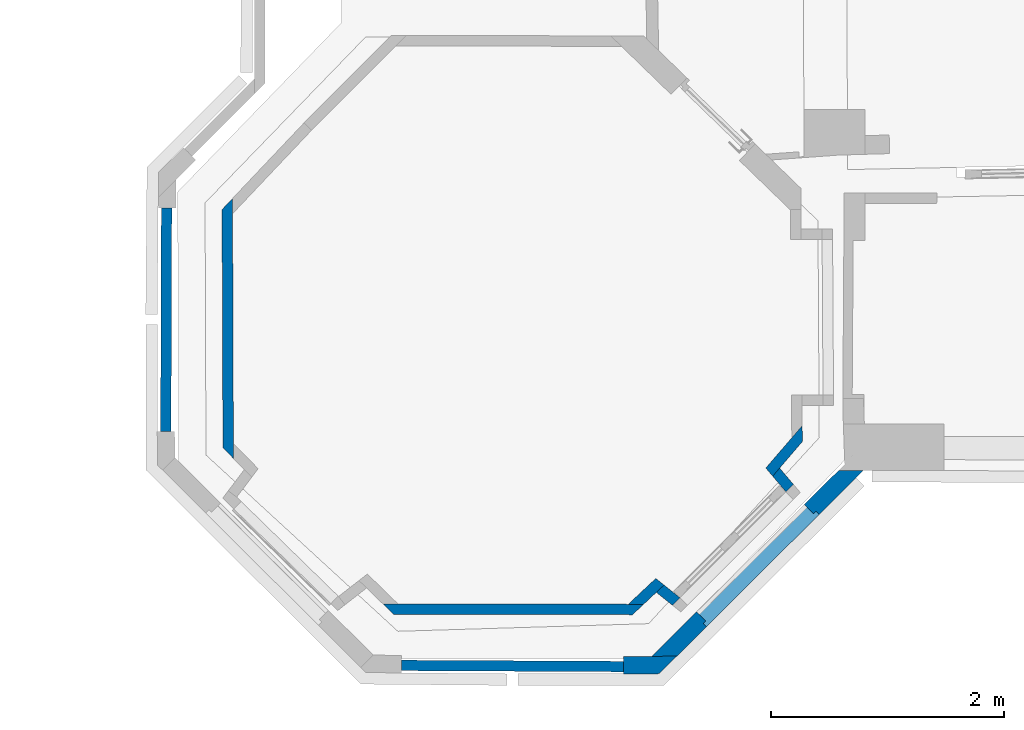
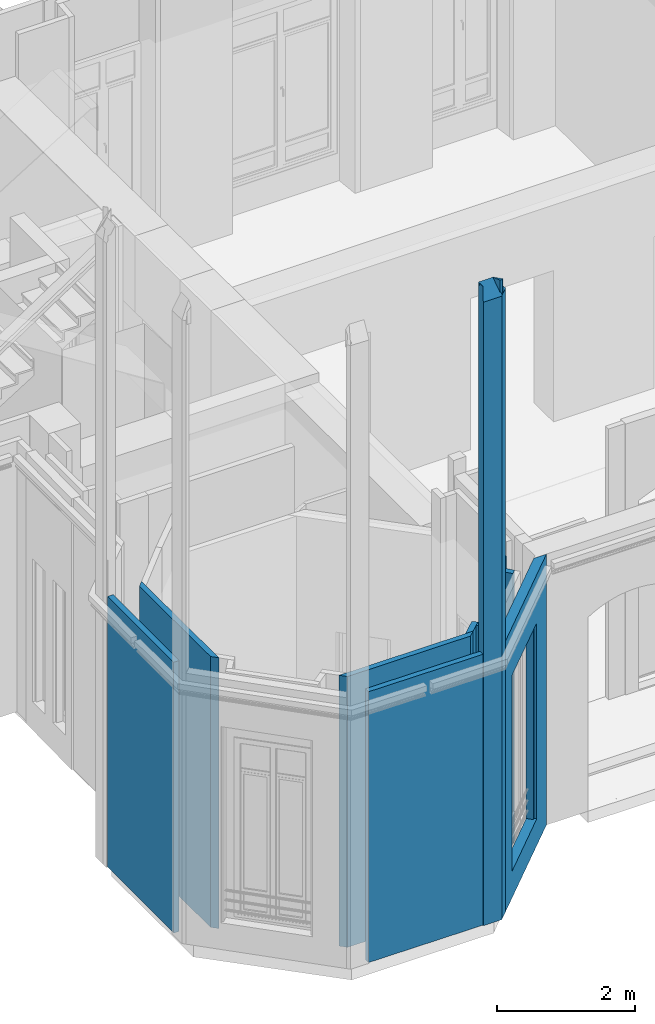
# One storey, part 4 of 97: 10 walls, 1 opening.
"""IFC2X3 building model written with IfcOpenShell, lengths in centimetres."""

from ifc_helpers import new_model, entity, si_unit, converted_unit, direction, frame, origin, origin_with_axes, origin_2d_with_axis, place, context, subcontext, project, spatial, polyline, rectangle, outline, extrude, clip, bounded_halfspace, faceted_brep, shape, material, layer, layer_set, layer_usage, type_object, element, save


model = new_model("IFC2X3")

# Units and contexts
model_context = context("Model", 3, precision=0.0001, world=origin(), true_north=direction((0.225632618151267, 0.974212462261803, 0.0)))
body_context = subcontext(model_context, "Body", "Model", "MODEL_VIEW")
footprint_context = subcontext(model_context, "FootPrint", "Model", "MODEL_VIEW")
profile_context = subcontext(model_context, "Profile", "Model", "MODEL_VIEW")
ifc_project = project(units=[si_unit("LENGTHUNIT", "METRE", prefix="CENTI"), si_unit("AREAUNIT", "SQUARE_METRE", prefix="CENTI"), si_unit("VOLUMEUNIT", "CUBIC_METRE", prefix="CENTI"), converted_unit("PLANEANGLEUNIT", "DEGREE", entity("IfcRatioMeasure", 0.0174532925), si_unit("PLANEANGLEUNIT", "RADIAN"), dimensions=[0, 0, 0, 0, 0, 0, 0])], contexts=[model_context])

# Site, building, storey
site_placement = place(None, origin_with_axes())
site = spatial("IfcSite", under=ifc_project, at=site_placement, Name="Default Site", CompositionType="ELEMENT")
building_placement = place(site_placement, origin_with_axes())
building = spatial("IfcBuilding", under=site, at=building_placement, Name="Default Building", CompositionType="ELEMENT")
storey_placement = place(building_placement, origin_with_axes())
storey = spatial("IfcBuildingStorey", under=building, at=storey_placement, Name="Rez-de-chaussée", CompositionType="ELEMENT", Elevation=0.0)

# Walls
ifc_material = material(Name="<aucun>")
ifc_layer_1 = layer(ifc_material, 9.0)
ifc_layer_set_1 = layer_set([ifc_layer_1], Name="default")
ifc_layer_usage_1 = layer_usage(ifc_layer_set_1, "AXIS2", "POSITIVE", -4.5)
wall_type_1 = type_object("IfcWallType", Name="default 90", PredefinedType="NOTDEFINED", material=ifc_layer_set_1)
wall_1_placement = place(storey_placement, frame((-864.166698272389, -1139.15427620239, 0.0128503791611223), z_axis=(0.0, 0.0, 1.0), x_axis=(-0.999986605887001, 0.00517571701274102, 0.0)))
element("IfcWallStandardCase", 1, at=wall_1_placement, inside=storey, type_object=wall_type_1, material=ifc_layer_usage_1, Name="Enveloppe 375883", context=body_context, shape_type="SweptSolid", body=[
    extrude(rectangle(XDim=8.99999999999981, YDim=190.423237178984, at=origin_2d_with_axis()), frame((95.3469453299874, -1.4210854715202e-12, -2.71050543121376e-18), z_axis=(0.0, 0.0, 1.0), x_axis=(-1.02348685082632e-16, -1.0, 0.0)), (0.0, 0.0, 1.0), 477.795358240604),
])
ifc_layer_usage_2 = layer_usage(ifc_layer_set_1, "AXIS2", "POSITIVE", -4.5)
wall_2_placement = place(storey_placement, frame((-1256.86167191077, -937.534476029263, 0.0128503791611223), z_axis=(0.0, 0.0, 1.0), x_axis=(0.00329246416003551, 0.999994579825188, 0.0)))
element("IfcWallStandardCase", 2, at=wall_2_placement, inside=storey, type_object=wall_type_1, material=ifc_layer_usage_2, Name="Enveloppe 373104", context=body_context, shape_type="SweptSolid", body=[
    extrude(outline(polyline([(-0.0930553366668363, 4.49999999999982), (0.00694466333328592, -4.50000000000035), (191.65066502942, -4.50000000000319), (191.609213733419, 4.4999999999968), (-0.0930553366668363, 4.49999999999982)])), origin_with_axes(), (0.0, 0.0, 1.0), 477.795358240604),
])
ifc_layer_usage_3 = layer_usage(ifc_layer_set_1, "AXIS2", "POSITIVE", -4.5)
wall_3_placement = place(storey_placement, frame((-722.09391317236, -985.90789142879, 0.0128503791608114), z_axis=(0.0, 0.0, 1.0), x_axis=(-0.645142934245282, 0.764061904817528, 0.0)))
element("IfcWallStandardCase", 3, at=wall_3_placement, inside=storey, type_object=wall_type_1, material=ifc_layer_usage_3, Name="Enveloppe 663288", context=body_context, shape_type="SweptSolid", body=[
    extrude(outline(polyline([(16.9320251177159, 4.50000000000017), (-0.646221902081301, 4.50000000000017), (0.121286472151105, -4.49999999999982), (18.3860856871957, -4.49999999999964), (16.9320251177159, 4.50000000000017)])), frame((0.0, 0.0, 2.71050543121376e-18), z_axis=(0.0, 0.0, 1.0), x_axis=(1.0, 0.0, 0.0)), (0.0, 0.0, 1.0), 477.795358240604),
])
ifc_layer_usage_4 = layer_usage(ifc_layer_set_1, "AXIS2", "POSITIVE", -4.5)
wall_4_placement = place(storey_placement, frame((-856.841432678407, -1088.64444712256, 0.0128503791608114), z_axis=(0.0, 0.0, 1.0), x_axis=(0.729404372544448, 0.684082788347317, 0.0)))
element("IfcWallStandardCase", 4, at=wall_4_placement, inside=storey, type_object=wall_type_1, material=ifc_layer_usage_4, Name="Enveloppe 663362", context=body_context, shape_type="SweptSolid", body=[
    extrude(outline(polyline([(-0.521693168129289, 4.49999999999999), (9.03921186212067, -4.4999999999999), (33.1103117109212, -4.49999999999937), (31.8096939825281, 4.5000000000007), (-0.521693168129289, 4.49999999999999)])), origin_with_axes(), (0.0, 0.0, 1.0), 477.795358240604),
])
ifc_layer_usage_5 = layer_usage(ifc_layer_set_1, "AXIS2", "POSITIVE", -4.5)
wall_5_placement = place(storey_placement, frame((-818.695972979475, -1083.75419653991, 0.0128503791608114), z_axis=(0.0, 0.0, 1.0), x_axis=(-0.781374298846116, 0.624062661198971, 0.0)))
element("IfcWallStandardCase", 5, at=wall_5_placement, inside=storey, type_object=wall_type_1, material=ifc_layer_usage_5, Name="Enveloppe 663416", context=body_context, shape_type="SweptSolid", body=[
    extrude(outline(polyline([(18.8652637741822, 4.49999999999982), (0.999312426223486, 4.50000000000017), (-1.77635683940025e-13, -4.49999999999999), (17.5646460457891, -4.49999999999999), (18.8652637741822, 4.49999999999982)])), origin_with_axes(), (0.0, 0.0, 1.0), 477.795358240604),
])
ifc_layer_usage_6 = layer_usage(ifc_layer_set_1, "AXIS2", "POSITIVE", -4.5)
wall_6_placement = place(storey_placement, frame((-735.436719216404, -967.778546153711, 0.0128503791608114), z_axis=(0.0, 0.0, 1.0), x_axis=(0.651384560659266, 0.758747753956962, 0.0)))
element("IfcWallStandardCase", 6, at=wall_6_placement, inside=storey, type_object=wall_type_1, material=ifc_layer_usage_6, Name="Enveloppe 7243", context=body_context, shape_type="SweptSolid", body=[
    extrude(outline(polyline([(-5.35207831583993, 4.49999999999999), (-6.80613888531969, -4.49999999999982), (32.1810835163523, -4.50000000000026), (42.5389147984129, 4.49999999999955), (-5.35207831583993, 4.49999999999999)])), origin_with_axes(), (0.0, 0.0, 1.0), 477.795358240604),
])
ifc_layer_usage_7 = layer_usage(ifc_layer_set_1, "AXIS2", "POSITIVE", -4.5)
wall_7_placement = place(storey_placement, frame((-1203.40776892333, -947.820758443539, 0.0128503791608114), z_axis=(0.0, 0.0, 1.0), x_axis=(-0.00363509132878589, 0.99999339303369, 0.0)))
element("IfcWallStandardCase", 7, at=wall_7_placement, inside=storey, type_object=wall_type_1, material=ifc_layer_usage_7, Name="Enveloppe 7305", context=body_context, shape_type="SweptSolid", body=[
    extrude(outline(polyline([(200.574414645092, 4.49999999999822), (-3.65017309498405, 4.49999999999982), (-12.9204507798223, -4.49999999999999), (210.018549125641, -4.50000000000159), (200.574414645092, 4.49999999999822)])), frame((0.0, 0.0, -5.42101086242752e-18), z_axis=(0.0, 0.0, 1.0), x_axis=(1.0, 0.0, 0.0)), (0.0, 0.0, 1.0), 477.795358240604),
])
ifc_layer_usage_8 = layer_usage(ifc_layer_set_1, "AXIS2", "POSITIVE", -4.5)
wall_8_placement = place(storey_placement, frame((-859.51420121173, -1090.2204645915, 0.0128503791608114), z_axis=(0.0, 0.0, 1.0), x_axis=(-0.999998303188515, 0.00184217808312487, 0.0)))
element("IfcWallStandardCase", 8, at=wall_8_placement, inside=storey, type_object=wall_type_1, material=ifc_layer_usage_8, Name="Enveloppe 7213", context=body_context, shape_type="SweptSolid", body=[
    extrude(outline(polyline([(211.263041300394, -4.4999999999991), (201.999695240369, 4.50000000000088), (-2.77520783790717, 4.49999999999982), (-12.3361128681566, -4.49999999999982), (211.263041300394, -4.4999999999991)])), origin_with_axes(), (0.0, 0.0, 1.0), 477.795358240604),
])
ifc_layer_2 = layer(ifc_material, 15.0)
ifc_layer_set_2 = layer_set([ifc_layer_2], Name="default")
ifc_layer_usage_9 = layer_usage(ifc_layer_set_2, "AXIS2", "POSITIVE", -7.5)
wall_type_2 = type_object("IfcWallType", Name="default 150", PredefinedType="NOTDEFINED", material=ifc_layer_set_2)
wall_9_placement = place(storey_placement, frame((-864.211914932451, -1137.86010532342, 0.0128503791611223), z_axis=(0.0, 0.0, 1.0), x_axis=(0.999998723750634, 0.00159765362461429, 0.0)))
solid_1 = clip(clip(clip(clip(clip(clip(clip(clip(extrude(outline(polyline([(-0.0999977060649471, -5.79337509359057), (-1.77635683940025e-13, -5.79405242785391), (-1.77635683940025e-13, -7.50000000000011), (30.3984350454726, -7.50000000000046), (45.5123485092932, 7.49999999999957), (0.0, 7.49999999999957), (1.49818646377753e-07, 3.95170406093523), (-0.0742549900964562, 3.95182269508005), (-0.0999977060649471, -5.79337509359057)])), frame((0.0, 0.0, -2.71050543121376e-18), z_axis=(0.0, 0.0, 1.0), x_axis=(1.0, 0.0, 0.0)), (0.0, 0.0, 1.0), 1126.83073312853), bounded_halfspace(frame((-0.0763865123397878, 3.20667143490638, 477.795358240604), z_axis=(0.0, 0.0, 1.0), x_axis=(0.00286051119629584, 0.999995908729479, 0.0)), True, frame((-0.0763865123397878, 3.20667143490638, 477.795358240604), z_axis=(0.0, 0.0, 1.0), x_axis=(1.0, 0.0, 0.0)), polyline([(-0.0198053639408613, -7.73922809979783), (0.0146918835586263, -9.95154440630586e-05), (1.77635683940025e-13, 0.0), (0.00213152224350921, 0.745151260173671), (0.076386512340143, 0.744938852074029), (0.076386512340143, -0.000517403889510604), (0.037348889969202, -0.000252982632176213), (-0.0198053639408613, -7.73922809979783)]))), bounded_halfspace(frame((-0.0763865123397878, 3.20667143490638, 477.795358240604), z_axis=(0.0, 0.0, 1.0), x_axis=(0.999977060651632, -0.00677334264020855, 0.0)), True, frame((-0.0763865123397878, 3.20667143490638, 477.795358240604), z_axis=(0.0, 0.0, 1.0), x_axis=(1.0, 0.0, 0.0)), polyline([(-0.0107407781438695, -3.75483032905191), (1.77635683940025e-13, 0.0), (0.0146918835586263, -9.95154440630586e-05), (-0.0107407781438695, -3.75483032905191)]))), bounded_halfspace(frame((34.7848477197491, -3.14664768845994, 853.897523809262), z_axis=(0.0, 0.0, 1.0), x_axis=(-0.704426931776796, 0.709776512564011, 0.0)), True, frame((34.7848477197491, -3.14664768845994, 853.897523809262), z_axis=(0.0, 0.0, 1.0), x_axis=(1.0, 0.0, 0.0)), polyline([(-1.95705105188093, 1.97191334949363), (6.75708927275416, 10.6466476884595), (10.7275007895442, 10.6466476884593), (1.77635683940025e-13, 0.0), (-1.95705105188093, 1.97191334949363)]))), bounded_halfspace(frame((24.2184437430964, 7.49999999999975, 853.897523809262), z_axis=(0.0, 0.0, 1.0), x_axis=(1.0, 6.52828485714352e-14, 0.0)), True, frame((24.2184437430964, 7.49999999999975, 853.897523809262), z_axis=(0.0, 0.0, 1.0), x_axis=(1.0, 0.0, 0.0)), polyline([(1.77635683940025e-13, 0.0), (0.500969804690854, -1.77635683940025e-13), (0.968193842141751, -0.975546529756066), (1.77635683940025e-13, 0.0)]))), bounded_halfspace(frame((25.1866375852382, 6.52445347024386, 853.897523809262), z_axis=(0.0, 0.0, 1.0), x_axis=(-0.431950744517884, 0.901897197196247, 0.0)), True, frame((25.1866375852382, 6.52445347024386, 853.897523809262), z_axis=(0.0, 0.0, 1.0), x_axis=(1.0, 0.0, 0.0)), polyline([(-0.467224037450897, 0.975546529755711), (16.3552994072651, 0.975546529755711), (7.64115908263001, -7.69918780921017), (0.0, -1.77635683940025e-13), (-0.467224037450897, 0.975546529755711)]))), bounded_halfspace(frame((-0.0390376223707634, 3.20641845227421, 1118.93042653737), z_axis=(0.00500907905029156, 0.871946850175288, -0.489574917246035), x_axis=(-0.00361553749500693, -0.489562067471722, -0.871960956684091)), True, frame((-0.0390376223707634, 3.20641845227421, 1118.93042653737), z_axis=(0.0, 0.0, 1.0), x_axis=(1.0, 0.0, 0.0)), polyline([(-0.0571542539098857, -7.73897511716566), (0.039037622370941, -7.73899243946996), (0.0390376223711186, -0.000264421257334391), (1.77635683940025e-13, 0.0), (-0.0571542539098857, -7.73897511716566)]))), bounded_halfspace(frame((0.0, -5.048426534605, 1104.22871227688), z_axis=(0.00500907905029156, 0.871946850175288, -0.489574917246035), x_axis=(9.96888118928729e-14, 0.489581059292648, 0.871957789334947)), True, frame((0.0, -5.048426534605, 1104.22871227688), z_axis=(0.0, 0.0, 1.0), x_axis=(1.0, 0.0, 0.0)), polyline([(-0.0999977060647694, -0.74494855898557), (0.0, -0.745625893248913), (1.77635683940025e-13, 0.0), (-0.09999959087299, 0.000286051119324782), (-0.0999977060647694, -0.74494855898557)]))), bounded_halfspace(frame((30.1505052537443, -3.83991884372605, 1104.95206232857), z_axis=(-0.615650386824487, 0.615456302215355, -0.49212614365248), x_axis=(0.222077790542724, -0.463690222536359, -0.857713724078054)), True, frame((30.1505052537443, -3.83991884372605, 1104.95206232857), z_axis=(0.0, 0.0, 1.0), x_axis=(1.0, 0.0, 0.0)), polyline([(1.77635683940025e-13, -1.77635683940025e-13), (0.334366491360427, -0.69814488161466), (3.23183395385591, -0.698666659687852), (4.63434246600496, 0.693271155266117), (2.67729141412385, 2.66518450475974), (1.77635683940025e-13, -1.77635683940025e-13)])))
solid_2 = clip(clip(clip(clip(clip(clip(clip(clip(solid_1, bounded_halfspace(frame((25.1866375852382, 6.52445347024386, 1124.12362114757), z_axis=(-0.615650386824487, 0.615456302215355, -0.49212614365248), x_axis=(0.222077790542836, -0.4636902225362, -0.857713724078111)), True, frame((25.1866375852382, 6.52445347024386, 1124.12362114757), z_axis=(0.0, 0.0, 1.0), x_axis=(1.0, 0.0, 0.0)), polyline([(0.0, -1.77635683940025e-13), (4.96386766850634, -10.3643723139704), (7.64115908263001, -7.69918780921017), (0.0, -1.77635683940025e-13)]))), bounded_halfspace(frame((24.04792268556, 7.49999999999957, 1126.82386277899), z_axis=(0.00500907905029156, 0.871946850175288, -0.489574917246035), x_axis=(2.93717957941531e-14, -0.489581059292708, -0.871957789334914)), True, frame((24.04792268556, 7.49999999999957, 1126.82386277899), z_axis=(0.0, 0.0, 1.0), x_axis=(1.0, 0.0, 0.0)), polyline([(-24.0479226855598, -12.0325739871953), (0.17052105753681, -12.0369352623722), (0.170521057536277, -0.402024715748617), (0.0, -1.77635683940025e-13), (-24.0479226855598, -1.77635683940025e-13), (-24.0479226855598, -12.0325739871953)]))), bounded_halfspace(frame((24.2184437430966, -4.53693526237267, 1105.38748345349), z_axis=(0.00500907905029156, 0.871946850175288, -0.489574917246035), x_axis=(0.999947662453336, -1.23670605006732e-14, 0.0102309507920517)), True, frame((24.2184437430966, -4.53693526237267, 1105.38748345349), z_axis=(0.0, 0.0, 1.0), x_axis=(1.0, 0.0, 0.0)), polyline([(-24.2184437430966, -2.96306473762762), (-1.77635683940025e-13, -2.96306473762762), (1.77635683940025e-13, 0.0), (-24.2184437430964, 0.00436127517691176), (-24.2184437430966, -2.96306473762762)]))), bounded_halfspace(frame((30.4848717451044, -4.53806372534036, 1103.660664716), z_axis=(-0.615650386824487, 0.615456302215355, -0.49212614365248), x_axis=(0.222077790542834, -0.463690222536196, -0.857713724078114)), True, frame((30.4848717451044, -4.53806372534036, 1103.660664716), z_axis=(0.0, 0.0, 1.0), x_axis=(1.0, 0.0, 0.0)), polyline([(0.0, -1.77635683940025e-13), (0.933686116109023, -1.94950211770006), (2.89746746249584, -0.000521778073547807), (0.0, -1.77635683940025e-13)]))), bounded_halfspace(frame((0.0, -4.53257398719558, 1105.14746033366), z_axis=(0.00500907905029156, 0.871946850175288, -0.489574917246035), x_axis=(-6.9410623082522e-16, 0.489581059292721, 0.871957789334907)), True, frame((0.0, -4.53257398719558, 1105.14746033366), z_axis=(0.0, 0.0, 1.0), x_axis=(1.0, 0.0, 0.0)), polyline([(-0.09999959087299, -0.515566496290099), (1.77635683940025e-13, -0.515852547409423), (1.77635683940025e-13, -1.77635683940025e-13), (-0.0961918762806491, 1.73223041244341e-05), (-0.09999959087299, -0.515566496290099)]))), bounded_halfspace(frame((30.1505052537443, -3.83991884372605, 1106.68958332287), z_axis=(0.00500907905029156, 0.871946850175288, -0.489574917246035), x_axis=(-0.439765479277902, -0.437776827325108, -0.784192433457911)), True, frame((30.1505052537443, -3.83991884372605, 1106.68958332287), z_axis=(0.0, 0.0, 1.0), x_axis=(1.0, 0.0, 0.0)), polyline([(-0.701128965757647, -0.697958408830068), (0.334366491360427, -0.69814488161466), (1.77635683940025e-13, -1.77635683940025e-13), (-0.701128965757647, -0.697958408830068)]))), bounded_halfspace(frame((24.2184437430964, 7.49999999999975, 1126.82560746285), z_axis=(0.00500907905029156, 0.871946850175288, -0.489574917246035), x_axis=(-2.49508530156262e-14, -0.489581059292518, -0.871957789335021)), True, frame((24.2184437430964, 7.49999999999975, 1126.82560746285), z_axis=(0.0, 0.0, 1.0), x_axis=(1.0, 0.0, 0.0)), polyline([(-1.77635683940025e-13, -0.402024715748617), (4.93539010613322, -12.0378240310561), (5.23093254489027, -12.0378772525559), (5.93206151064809, -11.3399188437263), (0.968193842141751, -0.975546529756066), (1.77635683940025e-13, 0.0), (-1.77635683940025e-13, -0.402024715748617)]))), bounded_halfspace(frame((24.2184437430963, 7.09797528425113, 1126.1095900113), z_axis=(0.00500907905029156, 0.871946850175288, -0.489574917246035), x_axis=(-0.203682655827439, 0.480207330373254, 0.853178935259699)), True, frame((24.2184437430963, 7.09797528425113, 1126.1095900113), z_axis=(0.0, 0.0, 1.0), x_axis=(1.0, 0.0, 0.0)), polyline([(5.32907051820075e-13, -11.6349105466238), (4.9353901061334, -11.6357993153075), (0.0, 0.0), (5.32907051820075e-13, -11.6349105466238)])))
element("IfcWallStandardCase", 9, at=wall_9_placement, inside=storey, type_object=wall_type_2, material=ifc_layer_usage_9, Name="Enveloppe 375675", context=body_context, shape_type="Clipping", body=[
    clip(clip(clip(clip(clip(clip(clip(clip(solid_2, bounded_halfspace(frame((24.04792268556, 7.49999999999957, 1126.76817995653), z_axis=(-0.615650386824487, 0.615456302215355, -0.49212614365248), x_axis=(0.203304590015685, -0.479315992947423, -0.853770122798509)), True, frame((24.04792268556, 7.49999999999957, 1126.76817995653), z_axis=(0.0, 0.0, 1.0), x_axis=(1.0, 0.0, 0.0)), polyline([(0.0, -1.77635683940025e-13), (0.170521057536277, -0.402024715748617), (0.170521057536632, 1.77635683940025e-13), (0.0, -1.77635683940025e-13)]))), bounded_halfspace(frame((29.1538338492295, -4.5378240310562, 1105.43639690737), z_axis=(0.00500907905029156, 0.871946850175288, -0.489574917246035), x_axis=(0.999947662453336, -1.9037939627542e-14, 0.010230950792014)), True, frame((29.1538338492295, -4.5378240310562, 1105.43639690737), z_axis=(0.0, 0.0, 1.0), x_axis=(1.0, 0.0, 0.0)), polyline([(-4.93539010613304, -2.96217596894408), (1.24460119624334, -2.96217596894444), (0.0, -1.77635683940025e-13), (-4.93539010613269, 0.000888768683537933), (-4.93539010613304, -2.96217596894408)]))), bounded_halfspace(frame((30.4848717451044, -4.53806372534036, 1105.449588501), z_axis=(0.00500907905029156, 0.871946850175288, -0.489574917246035), x_axis=(-0.228739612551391, 0.47759986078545, 0.84827858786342)), True, frame((30.4848717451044, -4.53806372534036, 1105.449588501), z_axis=(0.0, 0.0, 1.0), x_axis=(1.0, 0.0, 0.0)), polyline([(-1.33103789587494, 0.000239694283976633), (-0.0864366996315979, -2.96193627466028), (0.933686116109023, -1.94950211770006), (0.0, -1.77635683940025e-13), (-1.33103789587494, 0.000239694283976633)]))), bounded_halfspace(frame((1.77635683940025e-13, 3.95161028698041, 1120.25803379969), z_axis=(0.00500907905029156, 0.871946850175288, -0.489574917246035), x_axis=(-0.00331605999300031, -0.489563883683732, -0.871961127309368)), True, frame((1.77635683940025e-13, 3.95161028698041, 1120.25803379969), z_axis=(0.0, 0.0, 1.0), x_axis=(1.0, 0.0, 0.0)), polyline([(-0.0961918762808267, -8.48416695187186), (-0.0390376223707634, -0.745191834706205), (1.77635683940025e-13, -0.745456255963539), (1.77635683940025e-13, 0.0), (-0.0742549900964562, 0.000212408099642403), (-0.0763865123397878, -0.744938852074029), (-0.0616946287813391, -0.745038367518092), (-0.0961918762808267, -8.48416695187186)]))), bounded_halfspace(frame((-0.0763865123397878, 3.20667143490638, 1118.93049497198), z_axis=(0.00500907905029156, 0.871946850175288, -0.489574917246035), x_axis=(0.00331605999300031, 0.489563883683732, 0.871961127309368)), True, frame((-0.0763865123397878, 3.20667143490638, 1118.93049497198), z_axis=(0.0, 0.0, 1.0), x_axis=(1.0, 0.0, 0.0)), polyline([(-0.0107407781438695, -3.75483032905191), (0.0146918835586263, -9.95154440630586e-05), (1.77635683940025e-13, 0.0), (-0.0107407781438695, -3.75483032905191)]))), bounded_halfspace(frame((32.8277966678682, -1.17473433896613, 1104.93586547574), z_axis=(-0.615650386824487, 0.615456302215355, -0.49212614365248), x_axis=(-0.624390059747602, -1.77368970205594e-14, 0.7811127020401)), True, frame((32.8277966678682, -1.17473433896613, 1104.93586547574), z_axis=(0.0, 0.0, 1.0), x_axis=(1.0, 0.0, 0.0)), polyline([(0.0, -1.77635683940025e-13), (1.95705105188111, -1.9719133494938), (12.6845518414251, 8.67473433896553), (8.71414032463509, 8.67473433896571), (0.0, -1.77635683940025e-13)]))), bounded_halfspace(frame((24.7194135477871, 7.49999999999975, 1126.83073312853), z_axis=(0.00500907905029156, 0.871946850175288, -0.489574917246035), x_axis=(-0.228739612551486, 0.477599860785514, 0.848278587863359)), True, frame((24.7194135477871, 7.49999999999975, 1126.83073312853), z_axis=(0.0, 0.0, 1.0), x_axis=(1.0, 0.0, 0.0)), polyline([(-0.500969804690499, 0.0), (0.467224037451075, -0.975546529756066), (1.77635683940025e-13, -1.77635683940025e-13), (-0.500969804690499, 0.0)]))), bounded_halfspace(frame((24.7194135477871, 7.49999999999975, 1125.92814409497), z_axis=(-0.615650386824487, 0.615456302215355, -0.49212614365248), x_axis=(0.708700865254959, 0.705496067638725, -0.00428743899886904)), True, frame((24.7194135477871, 7.49999999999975, 1125.92814409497), z_axis=(0.0, 0.0, 1.0), x_axis=(1.0, 0.0, 0.0)), polyline([(1.77635683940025e-13, -1.77635683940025e-13), (0.467224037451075, -0.975546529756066), (8.10838312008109, -8.67473433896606), (16.8225234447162, -1.77635683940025e-13), (1.77635683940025e-13, -1.77635683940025e-13)]))),
])

# Wall, opening
ifc_layer_usage_10 = layer_usage(ifc_layer_set_2, "AXIS2", "POSITIVE", -7.5)
wall_10_placement = place(storey_placement, frame((-839.091700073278, -1139.99512367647, 0.0128503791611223), z_axis=(0.0, 0.0, 1.0), x_axis=(0.708650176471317, 0.705560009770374, 0.0)))
wall_10 = element("IfcWallStandardCase", 10, at=wall_10_placement, inside=storey, type_object=wall_type_2, material=ifc_layer_usage_10, Name="Enveloppe 375798", context=body_context, shape_type="SweptSolid", body=[
    extrude(outline(polyline([(6.17782340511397, 7.5000000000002), (6.17782340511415, -7.50000000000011), (247.15677497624, -7.49960558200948), (232.112051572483, 7.49999999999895), (6.17782340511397, 7.5000000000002)])), frame((0.0, 0.0, 2.71050543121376e-18), z_axis=(0.0, 0.0, 1.0), x_axis=(1.0, 0.0, 0.0)), (0.0, 0.0, 1.0), 477.795358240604),
])
opening_placement = place(wall_10_placement, frame((57.3093428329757, -1.13686837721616e-13, 46.9883323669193), z_axis=(0.0, 0.0, 1.0), x_axis=(-1.0, 4.82947015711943e-15, 0.0)))
cartesian_point_1 = entity("IfcCartesianPoint", [0.0, 0.0, 345.766099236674])
cartesian_point_2 = entity("IfcCartesianPoint", [-136.308061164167, -7.50000000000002])
element("IfcOpeningElement", 11, at=opening_placement, cuts=wall_10, Name="Baie 379602", ObjectType="Opening", shapes=[
    shape(body_context, "Body", "Brep", [faceted_brep([(-2.99999954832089, -27.5000596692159, 345.766103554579), (-133.308048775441, -27.5000618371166, 345.766103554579), (-133.308048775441, -27.5000618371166, 2.86909063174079e-07), (-2.99999954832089, -27.5000596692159, 2.86909063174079e-07), (9.96659608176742e-06, 27.5000034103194, 2.86909063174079e-07), (-136.308078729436, 27.5000011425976, 2.86909063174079e-07), (-136.308078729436, 27.5000011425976, 345.766103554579), (9.96659608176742e-06, 27.5000034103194, 345.766103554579), (-3.00000006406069, 3.49999915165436, 2.86909063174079e-07), (-3.00000006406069, 3.49999915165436, 345.766103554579), (-3.00003239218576, 3.49999915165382, 345.766103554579), (-3.00003239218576, 3.49999915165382, 2.86909063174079e-07), (-1.25103806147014e-05, 3.49999920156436, 2.86909063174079e-07), (-1.25103806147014e-05, 3.49999920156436, 345.766103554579), (-1.25103802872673e-05, 3.49997952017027, 345.766103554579), (-1.25103802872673e-05, 3.49997952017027, 2.86909063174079e-07), (-1.29096623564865e-05, 27.500003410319, 2.86909063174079e-07), (-1.29096623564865e-05, 27.500003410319, 345.766103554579), (-133.308048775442, -27.5000150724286, 2.86909063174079e-07), (-133.308047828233, 3.50001010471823, 2.86909063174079e-07), (-136.308033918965, 3.49999609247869, 2.86909063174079e-07), (-136.308078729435, 27.4999524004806, 2.86909063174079e-07), (-133.308048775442, -27.5000150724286, 345.766103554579), (-133.308049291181, 3.50001010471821, 345.766103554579), (-133.308049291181, 3.50001010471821, 2.86909063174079e-07), (-133.308047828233, 3.50001010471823, 345.766103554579), (-136.308033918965, 3.50001005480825, 345.766103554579), (-136.308033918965, 3.50001005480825, 2.86909063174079e-07), (-136.308033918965, 3.49999609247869, 345.766103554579), (-136.308034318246, 27.4999524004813, 345.766103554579), (-136.308034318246, 27.4999524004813, 2.86909063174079e-07), (-136.308078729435, 27.4999524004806, 345.766103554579)], [[[0, 1, 2, 3]], [[4, 5, 6, 7]], [[0, 3, 8, 9]], [[10, 11, 12, 13]], [[14, 15, 16, 17]], [[3, 18, 19, 20, 21, 4, 15, 11]], [[18, 22, 23, 24]], [[19, 25, 26, 27]], [[20, 28, 29, 30]], [[10, 14, 7, 31, 28, 25, 22, 0]]])]),
    shape(profile_context, "Profile", "GeometricCurveSet", [entity("IfcGeometricCurveSet", [entity("IfcPolyline", [cartesian_point_1, entity("IfcCartesianPoint", [0.0, 0.0, 5.55111512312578e-15]), entity("IfcCartesianPoint", [-136.308061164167, 0.0, 5.55111512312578e-15]), entity("IfcCartesianPoint", [-136.308061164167, 0.0, 345.766099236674]), cartesian_point_1])])]),
    shape(footprint_context, "FootPrint", "GeometricCurveSet", [entity("IfcGeometricCurveSet", [entity("IfcPolyline", [cartesian_point_2, entity("IfcCartesianPoint", [1.77635683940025e-13, -7.50000000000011]), entity("IfcCartesianPoint", [0.0, 7.50000000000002]), entity("IfcCartesianPoint", [-136.308061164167, 7.50000000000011]), cartesian_point_2])])]),
])

save(model, "model.ifc")
